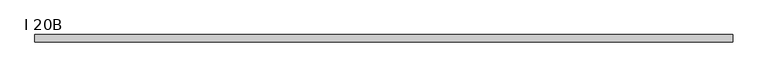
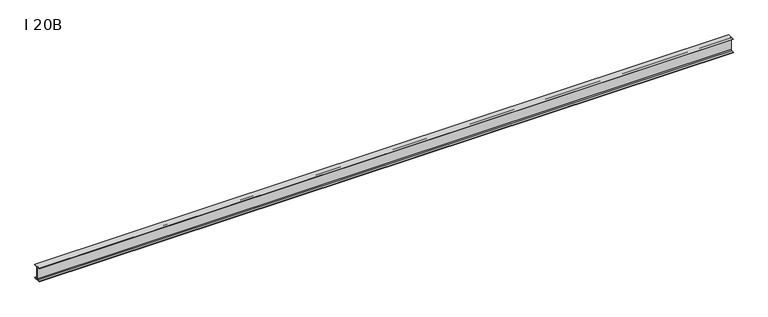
"""IFC4 building model written with IfcOpenShell, lengths in millimetres: beam geometry, Двутавровая балка с параллельными гранями полок типа Б (ТУ 14-2-24-72) Балки : I 20B."""

from ifc_helpers import new_model, si_unit, point, frame, frame_2d, origin, place, context, project, spatial, polyline, circle_curve, trimmed, segment, composite_curve, outline, extrude, source, transform, mapped, element, save


def i_20b_8d3c7cb6(model_context):
    return source(origin(), model_context, "Body", "SweptSolid", [
        extrude(outline(composite_curve([segment(polyline([(49.5, -91.4), (49.5, -97.0), (-49.5, -97.0), (-49.5, -91.4), (-13.25, -91.4)]), True, "CONTINUOUS"), segment(trimmed(circle_curve(frame_2d((-13.25, -80.4)), 11.0), [point((-13.25, -91.4))], [point((-2.25, -80.4))], True, "CARTESIAN"), True, "CONTINUOUS"), segment(polyline([(-2.25, -80.4), (-2.25, 80.4)]), True, "CONTINUOUS"), segment(trimmed(circle_curve(frame_2d((-13.25, 80.4)), 11.0), [point((-2.25, 80.4))], [point((-13.25, 91.4))], True, "CARTESIAN"), True, "CONTINUOUS"), segment(polyline([(-13.25, 91.4), (-49.5, 91.4), (-49.5, 97.0), (49.5, 97.0), (49.5, 91.4), (13.25, 91.4)]), True, "CONTINUOUS"), segment(trimmed(circle_curve(frame_2d((13.25, 80.4)), 11.0), [point((13.25, 91.4))], [point((2.25, 80.4))], True, "CARTESIAN"), True, "CONTINUOUS"), segment(polyline([(2.25, 80.4), (2.25, -80.4)]), True, "CONTINUOUS"), segment(trimmed(circle_curve(frame_2d((13.25, -80.4)), 11.0), [point((2.25, -80.4))], [point((13.25, -91.4))], True, "CARTESIAN"), True, "CONTINUOUS"), segment(polyline([(13.25, -91.4), (49.5, -91.4)]), True, "CONTINUOUS")], self_intersect=False)), frame((-4720.0, 0.0, 0.0), z_axis=(1.0, 0.0, 0.0), x_axis=(0.0, 1.0, 0.0)), (0.0, 0.0, 1.0), 9440.0),
    ])


if __name__ == "__main__":
    model = new_model("IFC4")
    model_context = context("Model", 3, world=origin())
    ifc_project = project(units=[si_unit("LENGTHUNIT", "METRE", prefix="MILLI")], contexts=[model_context])
    site = spatial("IfcSite", under=ifc_project)
    building = spatial("IfcBuilding", under=site)
    placement = place(None, origin())
    i_20b_shape = i_20b_8d3c7cb6(model_context)
    element("IfcBeam", 1, ObjectType="Двутавровая балка с параллельными гранями полок типа Б (ТУ 14-2-24-72) Балки : I 20B", at=placement, inside=building, context=model_context, shape_type="MappedRepresentation", body=[
        mapped(i_20b_shape, transform((0.0, 0.0, 0.0), x_axis=(1.0, 0.0, 0.0), y_axis=(0.0, 1.0, 0.0), z_axis=(0.0, 0.0, 1.0))),
    ])
    save(model, "model.ifc")
